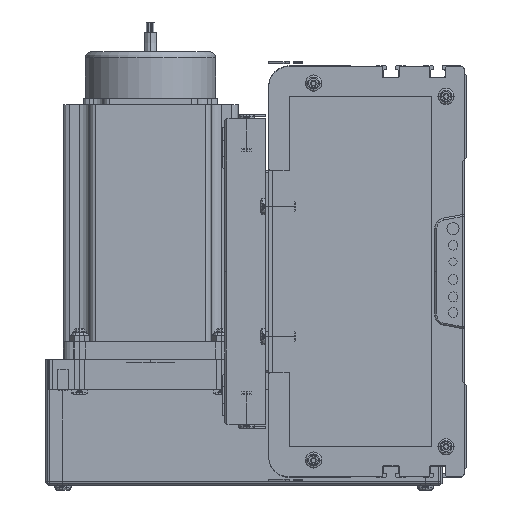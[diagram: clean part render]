
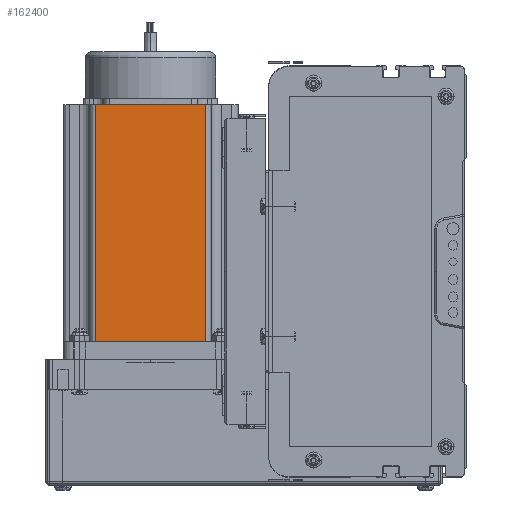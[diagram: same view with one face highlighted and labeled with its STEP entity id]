
A CAD part, left-side view. The second image highlights one B-rep face of the part: STEP entity #162400.
In plain terms, the highlighted planar face has unit normal (-1, 0, 0) as drawn and (0, -1, 0) by its records, which use the part's own axes.
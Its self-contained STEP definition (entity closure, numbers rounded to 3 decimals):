
#26238 = CARTESIAN_POINT ( 'NONE',  ( 16.16, 0., 0. ) ) ;
#26915 = DIRECTION ( 'NONE',  ( 0., 0., 1. ) ) ;
#26917 = VECTOR ( 'NONE', #26915, 1000. ) ;
#26918 = CARTESIAN_POINT ( 'NONE',  ( 69.74, 0., 116.5 ) ) ;
#27113 = LINE ( 'NONE', #26918, #26917 ) ;
#30710 = VERTEX_POINT ( 'NONE', #26238 ) ;
#30793 = EDGE_CURVE ( 'NONE', #162402, #162482, #27113, .T. ) ;
#30796 = EDGE_LOOP ( 'NONE', ( #162470, #162454, #162473, #162391 ) ) ;
#53131 = LINE ( 'NONE', #53316, #53314 ) ;
#53299 = DIRECTION ( 'NONE',  ( 0., 0., -1. ) ) ;
#53314 = VECTOR ( 'NONE', #53299, 1000. ) ;
#53316 = CARTESIAN_POINT ( 'NONE',  ( 16.16, 0., 116.5 ) ) ;
#93226 = FACE_OUTER_BOUND ( 'NONE', #30796, .T. ) ;
#93242 = AXIS2_PLACEMENT_3D ( 'NONE', #93292, #93294, #93277 ) ;
#93277 = DIRECTION ( 'NONE',  ( 0., 0., 1. ) ) ;
#93289 = CARTESIAN_POINT ( 'NONE',  ( 69.74, 0., 0. ) ) ;
#93292 = CARTESIAN_POINT ( 'NONE',  ( 0., 0., 116.5 ) ) ;
#93294 = DIRECTION ( 'NONE',  ( 0., 1., 0. ) ) ;
#93295 = PLANE ( 'NONE',  #93242 ) ;
#93467 = CARTESIAN_POINT ( 'NONE',  ( 16.16, 0., 116.5 ) ) ;
#93850 = DIRECTION ( 'NONE',  ( 1., 0., 0. ) ) ;
#93851 = VECTOR ( 'NONE', #93850, 1000. ) ;
#93852 = CARTESIAN_POINT ( 'NONE',  ( 0., 0., 116.5 ) ) ;
#93853 = LINE ( 'NONE', #93852, #93851 ) ;
#93870 = CARTESIAN_POINT ( 'NONE',  ( 69.74, 0., 116.5 ) ) ;
#147457 = LINE ( 'NONE', #147633, #147630 ) ;
#147629 = DIRECTION ( 'NONE',  ( 1., 0., 0. ) ) ;
#147630 = VECTOR ( 'NONE', #147629, 1000. ) ;
#147633 = CARTESIAN_POINT ( 'NONE',  ( 0., 0., 0. ) ) ;
#162135 = EDGE_CURVE ( 'NONE', #30710, #162402, #147457, .T. ) ;
#162391 = ORIENTED_EDGE ( 'NONE', *, *, #162468, .T. ) ;
#162400 = ADVANCED_FACE ( 'NONE', ( #93226 ), #93295, .F. ) ;
#162402 = VERTEX_POINT ( 'NONE', #93289 ) ;
#162454 = ORIENTED_EDGE ( 'NONE', *, *, #30793, .T. ) ;
#162461 = VERTEX_POINT ( 'NONE', #93467 ) ;
#162468 = EDGE_CURVE ( 'NONE', #162461, #30710, #53131, .T. ) ;
#162470 = ORIENTED_EDGE ( 'NONE', *, *, #162135, .T. ) ;
#162473 = ORIENTED_EDGE ( 'NONE', *, *, #162484, .F. ) ;
#162482 = VERTEX_POINT ( 'NONE', #93870 ) ;
#162484 = EDGE_CURVE ( 'NONE', #162461, #162482, #93853, .T. ) ;
